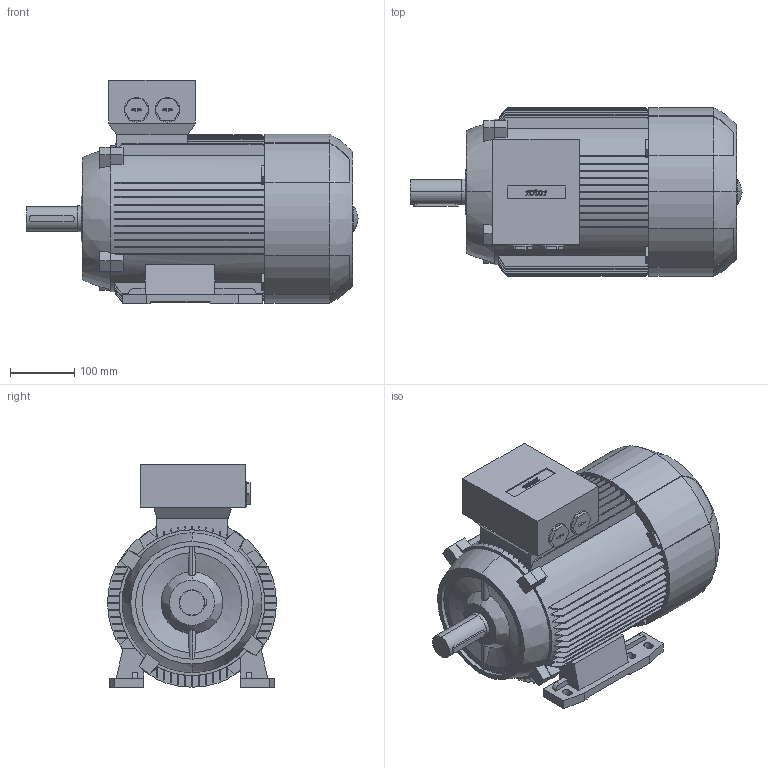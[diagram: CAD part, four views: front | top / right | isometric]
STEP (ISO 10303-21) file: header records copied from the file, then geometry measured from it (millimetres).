
FILE_DESCRIPTION (( 'STEP AP214' ), '1' );
FILE_NAME ('6RN132M06E33 IM1001.STEP', '2014-09-16T06:42:35', ( 'rbc_ict' ), ( 'REGAL' ), 'SwSTEP 2.0', 'SolidWorks 2012', '' );
FILE_SCHEMA (( 'AUTOMOTIVE_DESIGN' ));
Length unit declared in the file: millimetre
Products named in the file (1): 6RN132M06E33 IM1001
Bounding box: 515 x 262 x 347 mm (x, y, z)
Volume: 20912668.7 mm3; surface area: 866834.3 mm2
Topology: 1 solids, 1 shells, 636 faces, 1822 edges, 1208 vertices
Faces by surface type: plane 365, bspline 152, cylinder 113, cone 6
Entity records: 25539 total; most frequent: CARTESIAN_POINT 9869, ORIENTED_EDGE 3640, DIRECTION 2739, EDGE_CURVE 1820, VERTEX_POINT 1208, VECTOR 1055, LINE 1055, AXIS2_PLACEMENT_3D 842
